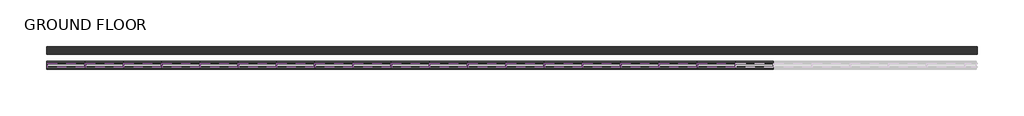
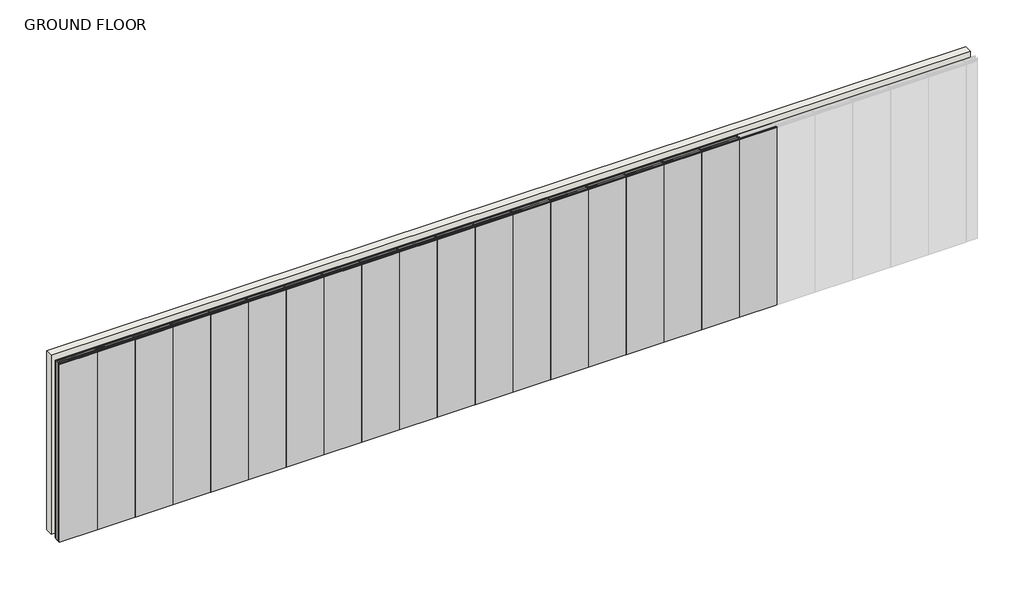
# One storey, part 1 of 2: 56 members, 19 plates, 1 wall.
"""IFC4 building model written with IfcOpenShell, lengths in millimetres."""

from ifc_helpers import new_model, si_unit, origin, origin_with_axes, place, context, project, spatial, polyline, outline, extrude, transform, mapped, element, save
from components import rectangular_mullion_stud_mullion_63mm_af775e70, rectangular_mullion_stud_mullion_63mm_2c4afd4c, rectangular_mullion_stud_mullion_63mm_ab3eab4e, rectangular_mullion_stud_mullion_63mm_08592bac, plate_2_layer_30mm_drywall_panels_124mm_1495f93a

model = new_model("IFC4")

# Units and contexts
model_context = context("Model", 3, world=origin())
ifc_project = project(units=[si_unit("LENGTHUNIT", "METRE", prefix="MILLI")], contexts=[model_context])

# Site, building, storey
site = spatial("IfcSite", under=ifc_project)
building = spatial("IfcBuilding", under=site)
storey = spatial("IfcBuildingStorey", under=building, Name="GROUND FLOOR", Elevation=0.0)

# Members
placement = place(None, origin())
rectangular_mullion_stud_mullion_63mm_shape = rectangular_mullion_stud_mullion_63mm_af775e70(model_context)
element("IfcMember", 1, ObjectType="Rectangular Mullion : Stud Mullion - 63mm", at=placement, inside=storey, context=model_context, shape_type="MappedRepresentation", body=[
    mapped(rectangular_mullion_stud_mullion_63mm_shape, transform((61654.5186508, -43221.4010443, 0.0), x_axis=(0.0, 0.0, -1.0), y_axis=(0.0, -1.0, 0.0), z_axis=(-1.0, 0.0, 0.0))),
])
element("IfcMember", 2, ObjectType="Rectangular Mullion : Stud Mullion - 63mm", at=placement, inside=storey, context=model_context, shape_type="MappedRepresentation", body=[
    mapped(rectangular_mullion_stud_mullion_63mm_shape, transform((62254.5186511, -43221.4010443, 0.0), x_axis=(0.0, 0.0, -1.0), y_axis=(0.0, -1.0, 0.0), z_axis=(-1.0, 0.0, 0.0))),
])
element("IfcMember", 3, ObjectType="Rectangular Mullion : Stud Mullion - 63mm", at=placement, inside=storey, context=model_context, shape_type="MappedRepresentation", body=[
    mapped(rectangular_mullion_stud_mullion_63mm_shape, transform((62854.5186511, -43221.4010443, 0.0), x_axis=(0.0, 0.0, -1.0), y_axis=(0.0, -1.0, 0.0), z_axis=(-1.0, 0.0, 0.0))),
])
element("IfcMember", 4, ObjectType="Rectangular Mullion : Stud Mullion - 63mm", at=placement, inside=storey, context=model_context, shape_type="MappedRepresentation", body=[
    mapped(rectangular_mullion_stud_mullion_63mm_shape, transform((63454.5186511, -43221.4010443, 0.0), x_axis=(0.0, 0.0, -1.0), y_axis=(0.0, -1.0, 0.0), z_axis=(-1.0, 0.0, 0.0))),
])
element("IfcMember", 5, ObjectType="Rectangular Mullion : Stud Mullion - 63mm", at=placement, inside=storey, context=model_context, shape_type="MappedRepresentation", body=[
    mapped(rectangular_mullion_stud_mullion_63mm_shape, transform((64054.5186511, -43221.4010443, 0.0), x_axis=(0.0, 0.0, -1.0), y_axis=(0.0, -1.0, 0.0), z_axis=(-1.0, 0.0, 0.0))),
])
element("IfcMember", 6, ObjectType="Rectangular Mullion : Stud Mullion - 63mm", at=placement, inside=storey, context=model_context, shape_type="MappedRepresentation", body=[
    mapped(rectangular_mullion_stud_mullion_63mm_shape, transform((64654.5186511, -43221.4010443, 0.0), x_axis=(0.0, 0.0, -1.0), y_axis=(0.0, -1.0, 0.0), z_axis=(-1.0, 0.0, 0.0))),
])
element("IfcMember", 7, ObjectType="Rectangular Mullion : Stud Mullion - 63mm", at=placement, inside=storey, context=model_context, shape_type="MappedRepresentation", body=[
    mapped(rectangular_mullion_stud_mullion_63mm_shape, transform((65254.5186511, -43221.4010443, 0.0), x_axis=(0.0, 0.0, -1.0), y_axis=(0.0, -1.0, 0.0), z_axis=(-1.0, 0.0, 0.0))),
])
element("IfcMember", 8, ObjectType="Rectangular Mullion : Stud Mullion - 63mm", at=placement, inside=storey, context=model_context, shape_type="MappedRepresentation", body=[
    mapped(rectangular_mullion_stud_mullion_63mm_shape, transform((65854.5186511, -43221.4010443, 0.0), x_axis=(0.0, 0.0, -1.0), y_axis=(0.0, -1.0, 0.0), z_axis=(-1.0, 0.0, 0.0))),
])
element("IfcMember", 9, ObjectType="Rectangular Mullion : Stud Mullion - 63mm", at=placement, inside=storey, context=model_context, shape_type="MappedRepresentation", body=[
    mapped(rectangular_mullion_stud_mullion_63mm_shape, transform((66454.5186511, -43221.4010443, 0.0), x_axis=(0.0, 0.0, -1.0), y_axis=(0.0, -1.0, 0.0), z_axis=(-1.0, 0.0, 0.0))),
])
element("IfcMember", 10, ObjectType="Rectangular Mullion : Stud Mullion - 63mm", at=placement, inside=storey, context=model_context, shape_type="MappedRepresentation", body=[
    mapped(rectangular_mullion_stud_mullion_63mm_shape, transform((67054.5186511, -43221.4010443, 0.0), x_axis=(0.0, 0.0, -1.0), y_axis=(0.0, -1.0, 0.0), z_axis=(-1.0, 0.0, 0.0))),
])
element("IfcMember", 11, ObjectType="Rectangular Mullion : Stud Mullion - 63mm", at=placement, inside=storey, context=model_context, shape_type="MappedRepresentation", body=[
    mapped(rectangular_mullion_stud_mullion_63mm_shape, transform((67654.5186511, -43221.4010443, 0.0), x_axis=(0.0, 0.0, -1.0), y_axis=(0.0, -1.0, 0.0), z_axis=(-1.0, 0.0, 0.0))),
])
element("IfcMember", 12, ObjectType="Rectangular Mullion : Stud Mullion - 63mm", at=placement, inside=storey, context=model_context, shape_type="MappedRepresentation", body=[
    mapped(rectangular_mullion_stud_mullion_63mm_shape, transform((68254.5186511, -43221.4010443, 0.0), x_axis=(0.0, 0.0, -1.0), y_axis=(0.0, -1.0, 0.0), z_axis=(-1.0, 0.0, 0.0))),
])
element("IfcMember", 13, ObjectType="Rectangular Mullion : Stud Mullion - 63mm", at=placement, inside=storey, context=model_context, shape_type="MappedRepresentation", body=[
    mapped(rectangular_mullion_stud_mullion_63mm_shape, transform((68854.5186511, -43221.4010443, 0.0), x_axis=(0.0, 0.0, -1.0), y_axis=(0.0, -1.0, 0.0), z_axis=(-1.0, 0.0, 0.0))),
])
element("IfcMember", 14, ObjectType="Rectangular Mullion : Stud Mullion - 63mm", at=placement, inside=storey, context=model_context, shape_type="MappedRepresentation", body=[
    mapped(rectangular_mullion_stud_mullion_63mm_shape, transform((69454.5186511, -43221.4010443, 0.0), x_axis=(0.0, 0.0, -1.0), y_axis=(0.0, -1.0, 0.0), z_axis=(-1.0, 0.0, 0.0))),
])
element("IfcMember", 15, ObjectType="Rectangular Mullion : Stud Mullion - 63mm", at=placement, inside=storey, context=model_context, shape_type="MappedRepresentation", body=[
    mapped(rectangular_mullion_stud_mullion_63mm_shape, transform((70054.5186511, -43221.4010443, 0.0), x_axis=(0.0, 0.0, -1.0), y_axis=(0.0, -1.0, 0.0), z_axis=(-1.0, 0.0, 0.0))),
])
element("IfcMember", 16, ObjectType="Rectangular Mullion : Stud Mullion - 63mm", at=placement, inside=storey, context=model_context, shape_type="MappedRepresentation", body=[
    mapped(rectangular_mullion_stud_mullion_63mm_shape, transform((70654.5186511, -43221.4010443, 0.0), x_axis=(0.0, 0.0, -1.0), y_axis=(0.0, -1.0, 0.0), z_axis=(-1.0, 0.0, 0.0))),
])
element("IfcMember", 17, ObjectType="Rectangular Mullion : Stud Mullion - 63mm", at=placement, inside=storey, context=model_context, shape_type="MappedRepresentation", body=[
    mapped(rectangular_mullion_stud_mullion_63mm_shape, transform((71254.5186511, -43221.4010443, 0.0), x_axis=(0.0, 0.0, -1.0), y_axis=(0.0, -1.0, 0.0), z_axis=(-1.0, 0.0, 0.0))),
])
element("IfcMember", 18, ObjectType="Rectangular Mullion : Stud Mullion - 63mm", at=placement, inside=storey, context=model_context, shape_type="MappedRepresentation", body=[
    mapped(rectangular_mullion_stud_mullion_63mm_shape, transform((71854.5186511, -43221.4010443, 0.0), x_axis=(0.0, 0.0, -1.0), y_axis=(0.0, -1.0, 0.0), z_axis=(-1.0, 0.0, 0.0))),
])
element("IfcMember", 19, ObjectType="Rectangular Mullion : Stud Mullion - 63mm", at=placement, inside=storey, context=model_context, shape_type="MappedRepresentation", body=[
    mapped(rectangular_mullion_stud_mullion_63mm_shape, transform((72454.5186511, -43221.4010443, 0.0), x_axis=(0.0, 0.0, -1.0), y_axis=(0.0, -1.0, 0.0), z_axis=(-1.0, 0.0, 0.0))),
])
rectangular_mullion_stud_mullion_63mm_2_shape = rectangular_mullion_stud_mullion_63mm_2c4afd4c(model_context)
element("IfcMember", 20, ObjectType="Rectangular Mullion : Stud Mullion - 63mm", at=placement, inside=storey, context=model_context, shape_type="MappedRepresentation", body=[
    mapped(rectangular_mullion_stud_mullion_63mm_2_shape, transform((61635.5186508, -43221.4010443, 3000.0), x_axis=(-1.0, 0.0, 0.0), y_axis=(0.0, -1.0, 0.0), z_axis=(0.0, 0.0, 1.0))),
])
rectangular_mullion_stud_mullion_63mm_3_shape = rectangular_mullion_stud_mullion_63mm_ab3eab4e(model_context)
element("IfcMember", 21, ObjectType="Rectangular Mullion : Stud Mullion - 63mm", at=placement, inside=storey, context=model_context, shape_type="MappedRepresentation", body=[
    mapped(rectangular_mullion_stud_mullion_63mm_3_shape, transform((62235.5186511, -43221.4010443, 3000.0), x_axis=(0.0, 0.0, 1.0), y_axis=(0.0, -1.0, 0.0), z_axis=(1.0, 0.0, 0.0))),
])
element("IfcMember", 22, ObjectType="Rectangular Mullion : Stud Mullion - 63mm", at=placement, inside=storey, context=model_context, shape_type="MappedRepresentation", body=[
    mapped(rectangular_mullion_stud_mullion_63mm_3_shape, transform((62835.5186511, -43221.4010443, 3000.0), x_axis=(0.0, 0.0, 1.0), y_axis=(0.0, -1.0, 0.0), z_axis=(1.0, 0.0, 0.0))),
])
element("IfcMember", 23, ObjectType="Rectangular Mullion : Stud Mullion - 63mm", at=placement, inside=storey, context=model_context, shape_type="MappedRepresentation", body=[
    mapped(rectangular_mullion_stud_mullion_63mm_3_shape, transform((63435.5186511, -43221.4010443, 3000.0), x_axis=(0.0, 0.0, 1.0), y_axis=(0.0, -1.0, 0.0), z_axis=(1.0, 0.0, 0.0))),
])
element("IfcMember", 24, ObjectType="Rectangular Mullion : Stud Mullion - 63mm", at=placement, inside=storey, context=model_context, shape_type="MappedRepresentation", body=[
    mapped(rectangular_mullion_stud_mullion_63mm_3_shape, transform((64035.5186511, -43221.4010443, 3000.0), x_axis=(0.0, 0.0, 1.0), y_axis=(0.0, -1.0, 0.0), z_axis=(1.0, 0.0, 0.0))),
])
element("IfcMember", 25, ObjectType="Rectangular Mullion : Stud Mullion - 63mm", at=placement, inside=storey, context=model_context, shape_type="MappedRepresentation", body=[
    mapped(rectangular_mullion_stud_mullion_63mm_3_shape, transform((64635.5186511, -43221.4010443, 3000.0), x_axis=(0.0, 0.0, 1.0), y_axis=(0.0, -1.0, 0.0), z_axis=(1.0, 0.0, 0.0))),
])
element("IfcMember", 26, ObjectType="Rectangular Mullion : Stud Mullion - 63mm", at=placement, inside=storey, context=model_context, shape_type="MappedRepresentation", body=[
    mapped(rectangular_mullion_stud_mullion_63mm_3_shape, transform((65235.5186511, -43221.4010443, 3000.0), x_axis=(0.0, 0.0, 1.0), y_axis=(0.0, -1.0, 0.0), z_axis=(1.0, 0.0, 0.0))),
])
element("IfcMember", 27, ObjectType="Rectangular Mullion : Stud Mullion - 63mm", at=placement, inside=storey, context=model_context, shape_type="MappedRepresentation", body=[
    mapped(rectangular_mullion_stud_mullion_63mm_3_shape, transform((65835.5186511, -43221.4010443, 3000.0), x_axis=(0.0, 0.0, 1.0), y_axis=(0.0, -1.0, 0.0), z_axis=(1.0, 0.0, 0.0))),
])
element("IfcMember", 28, ObjectType="Rectangular Mullion : Stud Mullion - 63mm", at=placement, inside=storey, context=model_context, shape_type="MappedRepresentation", body=[
    mapped(rectangular_mullion_stud_mullion_63mm_3_shape, transform((66435.5186511, -43221.4010443, 3000.0), x_axis=(0.0, 0.0, 1.0), y_axis=(0.0, -1.0, 0.0), z_axis=(1.0, 0.0, 0.0))),
])
element("IfcMember", 29, ObjectType="Rectangular Mullion : Stud Mullion - 63mm", at=placement, inside=storey, context=model_context, shape_type="MappedRepresentation", body=[
    mapped(rectangular_mullion_stud_mullion_63mm_3_shape, transform((67035.5186511, -43221.4010443, 3000.0), x_axis=(0.0, 0.0, 1.0), y_axis=(0.0, -1.0, 0.0), z_axis=(1.0, 0.0, 0.0))),
])
element("IfcMember", 30, ObjectType="Rectangular Mullion : Stud Mullion - 63mm", at=placement, inside=storey, context=model_context, shape_type="MappedRepresentation", body=[
    mapped(rectangular_mullion_stud_mullion_63mm_3_shape, transform((67635.5186511, -43221.4010443, 3000.0), x_axis=(0.0, 0.0, 1.0), y_axis=(0.0, -1.0, 0.0), z_axis=(1.0, 0.0, 0.0))),
])
element("IfcMember", 31, ObjectType="Rectangular Mullion : Stud Mullion - 63mm", at=placement, inside=storey, context=model_context, shape_type="MappedRepresentation", body=[
    mapped(rectangular_mullion_stud_mullion_63mm_3_shape, transform((68235.5186511, -43221.4010443, 3000.0), x_axis=(0.0, 0.0, 1.0), y_axis=(0.0, -1.0, 0.0), z_axis=(1.0, 0.0, 0.0))),
])
element("IfcMember", 32, ObjectType="Rectangular Mullion : Stud Mullion - 63mm", at=placement, inside=storey, context=model_context, shape_type="MappedRepresentation", body=[
    mapped(rectangular_mullion_stud_mullion_63mm_3_shape, transform((68835.5186511, -43221.4010443, 3000.0), x_axis=(0.0, 0.0, 1.0), y_axis=(0.0, -1.0, 0.0), z_axis=(1.0, 0.0, 0.0))),
])
element("IfcMember", 33, ObjectType="Rectangular Mullion : Stud Mullion - 63mm", at=placement, inside=storey, context=model_context, shape_type="MappedRepresentation", body=[
    mapped(rectangular_mullion_stud_mullion_63mm_3_shape, transform((69435.5186511, -43221.4010443, 3000.0), x_axis=(0.0, 0.0, 1.0), y_axis=(0.0, -1.0, 0.0), z_axis=(1.0, 0.0, 0.0))),
])
element("IfcMember", 34, ObjectType="Rectangular Mullion : Stud Mullion - 63mm", at=placement, inside=storey, context=model_context, shape_type="MappedRepresentation", body=[
    mapped(rectangular_mullion_stud_mullion_63mm_3_shape, transform((70035.5186511, -43221.4010443, 3000.0), x_axis=(0.0, 0.0, 1.0), y_axis=(0.0, -1.0, 0.0), z_axis=(1.0, 0.0, 0.0))),
])
element("IfcMember", 35, ObjectType="Rectangular Mullion : Stud Mullion - 63mm", at=placement, inside=storey, context=model_context, shape_type="MappedRepresentation", body=[
    mapped(rectangular_mullion_stud_mullion_63mm_3_shape, transform((70635.5186511, -43221.4010443, 3000.0), x_axis=(0.0, 0.0, 1.0), y_axis=(0.0, -1.0, 0.0), z_axis=(1.0, 0.0, 0.0))),
])
element("IfcMember", 36, ObjectType="Rectangular Mullion : Stud Mullion - 63mm", at=placement, inside=storey, context=model_context, shape_type="MappedRepresentation", body=[
    mapped(rectangular_mullion_stud_mullion_63mm_3_shape, transform((71235.5186511, -43221.4010443, 3000.0), x_axis=(0.0, 0.0, 1.0), y_axis=(0.0, -1.0, 0.0), z_axis=(1.0, 0.0, 0.0))),
])
element("IfcMember", 37, ObjectType="Rectangular Mullion : Stud Mullion - 63mm", at=placement, inside=storey, context=model_context, shape_type="MappedRepresentation", body=[
    mapped(rectangular_mullion_stud_mullion_63mm_3_shape, transform((71835.5186511, -43221.4010443, 3000.0), x_axis=(0.0, 0.0, 1.0), y_axis=(0.0, -1.0, 0.0), z_axis=(1.0, 0.0, 0.0))),
])
element("IfcMember", 38, ObjectType="Rectangular Mullion : Stud Mullion - 63mm", at=placement, inside=storey, context=model_context, shape_type="MappedRepresentation", body=[
    mapped(rectangular_mullion_stud_mullion_63mm_3_shape, transform((72435.5186511, -43221.4010443, 3000.0), x_axis=(0.0, 0.0, 1.0), y_axis=(0.0, -1.0, 0.0), z_axis=(1.0, 0.0, 0.0))),
])
rectangular_mullion_stud_mullion_63mm_4_shape = rectangular_mullion_stud_mullion_63mm_08592bac(model_context)
element("IfcMember", 39, ObjectType="Rectangular Mullion : Stud Mullion - 63mm", at=placement, inside=storey, context=model_context, shape_type="MappedRepresentation", body=[
    mapped(rectangular_mullion_stud_mullion_63mm_4_shape, transform((62245.0186511, -43221.4010443, 0.0), x_axis=(1.0, 0.0, 0.0), y_axis=(0.0, -1.0, 0.0), z_axis=(0.0, 0.0, -1.0))),
])
element("IfcMember", 40, ObjectType="Rectangular Mullion : Stud Mullion - 63mm", at=placement, inside=storey, context=model_context, shape_type="MappedRepresentation", body=[
    mapped(rectangular_mullion_stud_mullion_63mm_4_shape, transform((62845.0186511, -43221.4010443, 0.0), x_axis=(1.0, 0.0, 0.0), y_axis=(0.0, -1.0, 0.0), z_axis=(0.0, 0.0, -1.0))),
])
element("IfcMember", 41, ObjectType="Rectangular Mullion : Stud Mullion - 63mm", at=placement, inside=storey, context=model_context, shape_type="MappedRepresentation", body=[
    mapped(rectangular_mullion_stud_mullion_63mm_4_shape, transform((63445.0186511, -43221.4010443, 0.0), x_axis=(1.0, 0.0, 0.0), y_axis=(0.0, -1.0, 0.0), z_axis=(0.0, 0.0, -1.0))),
])
element("IfcMember", 42, ObjectType="Rectangular Mullion : Stud Mullion - 63mm", at=placement, inside=storey, context=model_context, shape_type="MappedRepresentation", body=[
    mapped(rectangular_mullion_stud_mullion_63mm_4_shape, transform((64045.0186511, -43221.4010443, 0.0), x_axis=(1.0, 0.0, 0.0), y_axis=(0.0, -1.0, 0.0), z_axis=(0.0, 0.0, -1.0))),
])
element("IfcMember", 43, ObjectType="Rectangular Mullion : Stud Mullion - 63mm", at=placement, inside=storey, context=model_context, shape_type="MappedRepresentation", body=[
    mapped(rectangular_mullion_stud_mullion_63mm_4_shape, transform((64645.0186511, -43221.4010443, 0.0), x_axis=(1.0, 0.0, 0.0), y_axis=(0.0, -1.0, 0.0), z_axis=(0.0, 0.0, -1.0))),
])
element("IfcMember", 44, ObjectType="Rectangular Mullion : Stud Mullion - 63mm", at=placement, inside=storey, context=model_context, shape_type="MappedRepresentation", body=[
    mapped(rectangular_mullion_stud_mullion_63mm_4_shape, transform((65245.0186511, -43221.4010443, 0.0), x_axis=(1.0, 0.0, 0.0), y_axis=(0.0, -1.0, 0.0), z_axis=(0.0, 0.0, -1.0))),
])
element("IfcMember", 45, ObjectType="Rectangular Mullion : Stud Mullion - 63mm", at=placement, inside=storey, context=model_context, shape_type="MappedRepresentation", body=[
    mapped(rectangular_mullion_stud_mullion_63mm_4_shape, transform((65845.0186511, -43221.4010443, 0.0), x_axis=(1.0, 0.0, 0.0), y_axis=(0.0, -1.0, 0.0), z_axis=(0.0, 0.0, -1.0))),
])
element("IfcMember", 46, ObjectType="Rectangular Mullion : Stud Mullion - 63mm", at=placement, inside=storey, context=model_context, shape_type="MappedRepresentation", body=[
    mapped(rectangular_mullion_stud_mullion_63mm_4_shape, transform((66445.0186511, -43221.4010443, 0.0), x_axis=(1.0, 0.0, 0.0), y_axis=(0.0, -1.0, 0.0), z_axis=(0.0, 0.0, -1.0))),
])
element("IfcMember", 47, ObjectType="Rectangular Mullion : Stud Mullion - 63mm", at=placement, inside=storey, context=model_context, shape_type="MappedRepresentation", body=[
    mapped(rectangular_mullion_stud_mullion_63mm_4_shape, transform((67045.0186511, -43221.4010443, 0.0), x_axis=(1.0, 0.0, 0.0), y_axis=(0.0, -1.0, 0.0), z_axis=(0.0, 0.0, -1.0))),
])
element("IfcMember", 48, ObjectType="Rectangular Mullion : Stud Mullion - 63mm", at=placement, inside=storey, context=model_context, shape_type="MappedRepresentation", body=[
    mapped(rectangular_mullion_stud_mullion_63mm_4_shape, transform((67645.0186511, -43221.4010443, 0.0), x_axis=(1.0, 0.0, 0.0), y_axis=(0.0, -1.0, 0.0), z_axis=(0.0, 0.0, -1.0))),
])
element("IfcMember", 49, ObjectType="Rectangular Mullion : Stud Mullion - 63mm", at=placement, inside=storey, context=model_context, shape_type="MappedRepresentation", body=[
    mapped(rectangular_mullion_stud_mullion_63mm_4_shape, transform((68245.0186511, -43221.4010443, 0.0), x_axis=(1.0, 0.0, 0.0), y_axis=(0.0, -1.0, 0.0), z_axis=(0.0, 0.0, -1.0))),
])
element("IfcMember", 50, ObjectType="Rectangular Mullion : Stud Mullion - 63mm", at=placement, inside=storey, context=model_context, shape_type="MappedRepresentation", body=[
    mapped(rectangular_mullion_stud_mullion_63mm_4_shape, transform((68845.0186511, -43221.4010443, 0.0), x_axis=(1.0, 0.0, 0.0), y_axis=(0.0, -1.0, 0.0), z_axis=(0.0, 0.0, -1.0))),
])
element("IfcMember", 51, ObjectType="Rectangular Mullion : Stud Mullion - 63mm", at=placement, inside=storey, context=model_context, shape_type="MappedRepresentation", body=[
    mapped(rectangular_mullion_stud_mullion_63mm_4_shape, transform((69445.0186511, -43221.4010443, 0.0), x_axis=(1.0, 0.0, 0.0), y_axis=(0.0, -1.0, 0.0), z_axis=(0.0, 0.0, -1.0))),
])
element("IfcMember", 52, ObjectType="Rectangular Mullion : Stud Mullion - 63mm", at=placement, inside=storey, context=model_context, shape_type="MappedRepresentation", body=[
    mapped(rectangular_mullion_stud_mullion_63mm_4_shape, transform((70045.0186511, -43221.4010443, 0.0), x_axis=(1.0, 0.0, 0.0), y_axis=(0.0, -1.0, 0.0), z_axis=(0.0, 0.0, -1.0))),
])
element("IfcMember", 53, ObjectType="Rectangular Mullion : Stud Mullion - 63mm", at=placement, inside=storey, context=model_context, shape_type="MappedRepresentation", body=[
    mapped(rectangular_mullion_stud_mullion_63mm_4_shape, transform((70645.0186511, -43221.4010443, 0.0), x_axis=(1.0, 0.0, 0.0), y_axis=(0.0, -1.0, 0.0), z_axis=(0.0, 0.0, -1.0))),
])
element("IfcMember", 54, ObjectType="Rectangular Mullion : Stud Mullion - 63mm", at=placement, inside=storey, context=model_context, shape_type="MappedRepresentation", body=[
    mapped(rectangular_mullion_stud_mullion_63mm_4_shape, transform((71245.0186511, -43221.4010443, 0.0), x_axis=(1.0, 0.0, 0.0), y_axis=(0.0, -1.0, 0.0), z_axis=(0.0, 0.0, -1.0))),
])
element("IfcMember", 55, ObjectType="Rectangular Mullion : Stud Mullion - 63mm", at=placement, inside=storey, context=model_context, shape_type="MappedRepresentation", body=[
    mapped(rectangular_mullion_stud_mullion_63mm_4_shape, transform((71845.0186511, -43221.4010443, 0.0), x_axis=(1.0, 0.0, 0.0), y_axis=(0.0, -1.0, 0.0), z_axis=(0.0, 0.0, -1.0))),
])
element("IfcMember", 56, ObjectType="Rectangular Mullion : Stud Mullion - 63mm", at=placement, inside=storey, context=model_context, shape_type="MappedRepresentation", body=[
    mapped(rectangular_mullion_stud_mullion_63mm_4_shape, transform((72445.0186511, -43221.4010443, 0.0), x_axis=(1.0, 0.0, 0.0), y_axis=(0.0, -1.0, 0.0), z_axis=(0.0, 0.0, -1.0))),
])

# Plates
plate_2_layer_30mm_drywall_panels_124mm_shape = plate_2_layer_30mm_drywall_panels_124mm_1495f93a(model_context)
element("IfcPlate", 57, ObjectType="4 LayerS - Drywall Panels : 2 Layer - 30mm Drywall Panels 124mm", at=placement, inside=storey, context=model_context, shape_type="MappedRepresentation", body=[
    mapped(plate_2_layer_30mm_drywall_panels_124mm_shape, transform((61936.318651, -43221.4010443, 1.6), x_axis=(1.0, 0.0, 0.0), y_axis=(0.0, 1.0, 0.0), z_axis=(0.0, 0.0, 1.0))),
])
element("IfcPlate", 58, ObjectType="4 LayerS - Drywall Panels : 2 Layer - 30mm Drywall Panels 124mm", at=placement, inside=storey, context=model_context, shape_type="MappedRepresentation", body=[
    mapped(plate_2_layer_30mm_drywall_panels_124mm_shape, transform((62536.3186511, -43221.4010443, 1.6), x_axis=(1.0, 0.0, 0.0), y_axis=(0.0, 1.0, 0.0), z_axis=(0.0, 0.0, 1.0))),
])
element("IfcPlate", 59, ObjectType="4 LayerS - Drywall Panels : 2 Layer - 30mm Drywall Panels 124mm", at=placement, inside=storey, context=model_context, shape_type="MappedRepresentation", body=[
    mapped(plate_2_layer_30mm_drywall_panels_124mm_shape, transform((63136.3186511, -43221.4010443, 1.6), x_axis=(1.0, 0.0, 0.0), y_axis=(0.0, 1.0, 0.0), z_axis=(0.0, 0.0, 1.0))),
])
element("IfcPlate", 60, ObjectType="4 LayerS - Drywall Panels : 2 Layer - 30mm Drywall Panels 124mm", at=placement, inside=storey, context=model_context, shape_type="MappedRepresentation", body=[
    mapped(plate_2_layer_30mm_drywall_panels_124mm_shape, transform((63736.3186511, -43221.4010443, 1.6), x_axis=(1.0, 0.0, 0.0), y_axis=(0.0, 1.0, 0.0), z_axis=(0.0, 0.0, 1.0))),
])
element("IfcPlate", 61, ObjectType="4 LayerS - Drywall Panels : 2 Layer - 30mm Drywall Panels 124mm", at=placement, inside=storey, context=model_context, shape_type="MappedRepresentation", body=[
    mapped(plate_2_layer_30mm_drywall_panels_124mm_shape, transform((64336.3186511, -43221.4010443, 1.6), x_axis=(1.0, 0.0, 0.0), y_axis=(0.0, 1.0, 0.0), z_axis=(0.0, 0.0, 1.0))),
])
element("IfcPlate", 62, ObjectType="4 LayerS - Drywall Panels : 2 Layer - 30mm Drywall Panels 124mm", at=placement, inside=storey, context=model_context, shape_type="MappedRepresentation", body=[
    mapped(plate_2_layer_30mm_drywall_panels_124mm_shape, transform((64936.3186511, -43221.4010443, 1.6), x_axis=(1.0, 0.0, 0.0), y_axis=(0.0, 1.0, 0.0), z_axis=(0.0, 0.0, 1.0))),
])
element("IfcPlate", 63, ObjectType="4 LayerS - Drywall Panels : 2 Layer - 30mm Drywall Panels 124mm", at=placement, inside=storey, context=model_context, shape_type="MappedRepresentation", body=[
    mapped(plate_2_layer_30mm_drywall_panels_124mm_shape, transform((65536.3186511, -43221.4010443, 1.6), x_axis=(1.0, 0.0, 0.0), y_axis=(0.0, 1.0, 0.0), z_axis=(0.0, 0.0, 1.0))),
])
element("IfcPlate", 64, ObjectType="4 LayerS - Drywall Panels : 2 Layer - 30mm Drywall Panels 124mm", at=placement, inside=storey, context=model_context, shape_type="MappedRepresentation", body=[
    mapped(plate_2_layer_30mm_drywall_panels_124mm_shape, transform((66136.3186511, -43221.4010443, 1.6), x_axis=(1.0, 0.0, 0.0), y_axis=(0.0, 1.0, 0.0), z_axis=(0.0, 0.0, 1.0))),
])
element("IfcPlate", 65, ObjectType="4 LayerS - Drywall Panels : 2 Layer - 30mm Drywall Panels 124mm", at=placement, inside=storey, context=model_context, shape_type="MappedRepresentation", body=[
    mapped(plate_2_layer_30mm_drywall_panels_124mm_shape, transform((66736.3186511, -43221.4010443, 1.6), x_axis=(1.0, 0.0, 0.0), y_axis=(0.0, 1.0, 0.0), z_axis=(0.0, 0.0, 1.0))),
])
element("IfcPlate", 66, ObjectType="4 LayerS - Drywall Panels : 2 Layer - 30mm Drywall Panels 124mm", at=placement, inside=storey, context=model_context, shape_type="MappedRepresentation", body=[
    mapped(plate_2_layer_30mm_drywall_panels_124mm_shape, transform((67336.3186511, -43221.4010443, 1.6), x_axis=(1.0, 0.0, 0.0), y_axis=(0.0, 1.0, 0.0), z_axis=(0.0, 0.0, 1.0))),
])
element("IfcPlate", 67, ObjectType="4 LayerS - Drywall Panels : 2 Layer - 30mm Drywall Panels 124mm", at=placement, inside=storey, context=model_context, shape_type="MappedRepresentation", body=[
    mapped(plate_2_layer_30mm_drywall_panels_124mm_shape, transform((67936.3186511, -43221.4010443, 1.6), x_axis=(1.0, 0.0, 0.0), y_axis=(0.0, 1.0, 0.0), z_axis=(0.0, 0.0, 1.0))),
])
element("IfcPlate", 68, ObjectType="4 LayerS - Drywall Panels : 2 Layer - 30mm Drywall Panels 124mm", at=placement, inside=storey, context=model_context, shape_type="MappedRepresentation", body=[
    mapped(plate_2_layer_30mm_drywall_panels_124mm_shape, transform((68536.3186511, -43221.4010443, 1.6), x_axis=(1.0, 0.0, 0.0), y_axis=(0.0, 1.0, 0.0), z_axis=(0.0, 0.0, 1.0))),
])
element("IfcPlate", 69, ObjectType="4 LayerS - Drywall Panels : 2 Layer - 30mm Drywall Panels 124mm", at=placement, inside=storey, context=model_context, shape_type="MappedRepresentation", body=[
    mapped(plate_2_layer_30mm_drywall_panels_124mm_shape, transform((69136.3186511, -43221.4010443, 1.6), x_axis=(1.0, 0.0, 0.0), y_axis=(0.0, 1.0, 0.0), z_axis=(0.0, 0.0, 1.0))),
])
element("IfcPlate", 70, ObjectType="4 LayerS - Drywall Panels : 2 Layer - 30mm Drywall Panels 124mm", at=placement, inside=storey, context=model_context, shape_type="MappedRepresentation", body=[
    mapped(plate_2_layer_30mm_drywall_panels_124mm_shape, transform((69736.3186511, -43221.4010443, 1.6), x_axis=(1.0, 0.0, 0.0), y_axis=(0.0, 1.0, 0.0), z_axis=(0.0, 0.0, 1.0))),
])
element("IfcPlate", 71, ObjectType="4 LayerS - Drywall Panels : 2 Layer - 30mm Drywall Panels 124mm", at=placement, inside=storey, context=model_context, shape_type="MappedRepresentation", body=[
    mapped(plate_2_layer_30mm_drywall_panels_124mm_shape, transform((70336.3186511, -43221.4010443, 1.6), x_axis=(1.0, 0.0, 0.0), y_axis=(0.0, 1.0, 0.0), z_axis=(0.0, 0.0, 1.0))),
])
element("IfcPlate", 72, ObjectType="4 LayerS - Drywall Panels : 2 Layer - 30mm Drywall Panels 124mm", at=placement, inside=storey, context=model_context, shape_type="MappedRepresentation", body=[
    mapped(plate_2_layer_30mm_drywall_panels_124mm_shape, transform((70936.3186511, -43221.4010443, 1.6), x_axis=(1.0, 0.0, 0.0), y_axis=(0.0, 1.0, 0.0), z_axis=(0.0, 0.0, 1.0))),
])
element("IfcPlate", 73, ObjectType="4 LayerS - Drywall Panels : 2 Layer - 30mm Drywall Panels 124mm", at=placement, inside=storey, context=model_context, shape_type="MappedRepresentation", body=[
    mapped(plate_2_layer_30mm_drywall_panels_124mm_shape, transform((71536.3186511, -43221.4010443, 1.6), x_axis=(1.0, 0.0, 0.0), y_axis=(0.0, 1.0, 0.0), z_axis=(0.0, 0.0, 1.0))),
])
element("IfcPlate", 74, ObjectType="4 LayerS - Drywall Panels : 2 Layer - 30mm Drywall Panels 124mm", at=placement, inside=storey, context=model_context, shape_type="MappedRepresentation", body=[
    mapped(plate_2_layer_30mm_drywall_panels_124mm_shape, transform((72136.3186511, -43221.4010443, 1.6), x_axis=(1.0, 0.0, 0.0), y_axis=(0.0, 1.0, 0.0), z_axis=(0.0, 0.0, 1.0))),
])
element("IfcPlate", 75, ObjectType="4 LayerS - Drywall Panels : 2 Layer - 30mm Drywall Panels 124mm", at=placement, inside=storey, context=model_context, shape_type="MappedRepresentation", body=[
    mapped(plate_2_layer_30mm_drywall_panels_124mm_shape, transform((72736.3186511, -43221.4010443, 1.6), x_axis=(1.0, 0.0, 0.0), y_axis=(0.0, 1.0, 0.0), z_axis=(0.0, 0.0, 1.0))),
])

# Wall
element("IfcWall", 76, ObjectType="PW09 - JUMBO FireWALL 63/120", at=placement, inside=storey, context=model_context, shape_type="SweptSolid", body=[
    extrude(outline(polyline([(76235.5186508, -43053.4010443), (61635.5186508, -43053.4010443), (61635.5186508, -42929.4010443), (76235.5186508, -42929.4010443), (76235.5186508, -43053.4010443)])), origin_with_axes(), (0.0, 0.0, 1.0), 3000.0),
])

save(model, "model.ifc")
